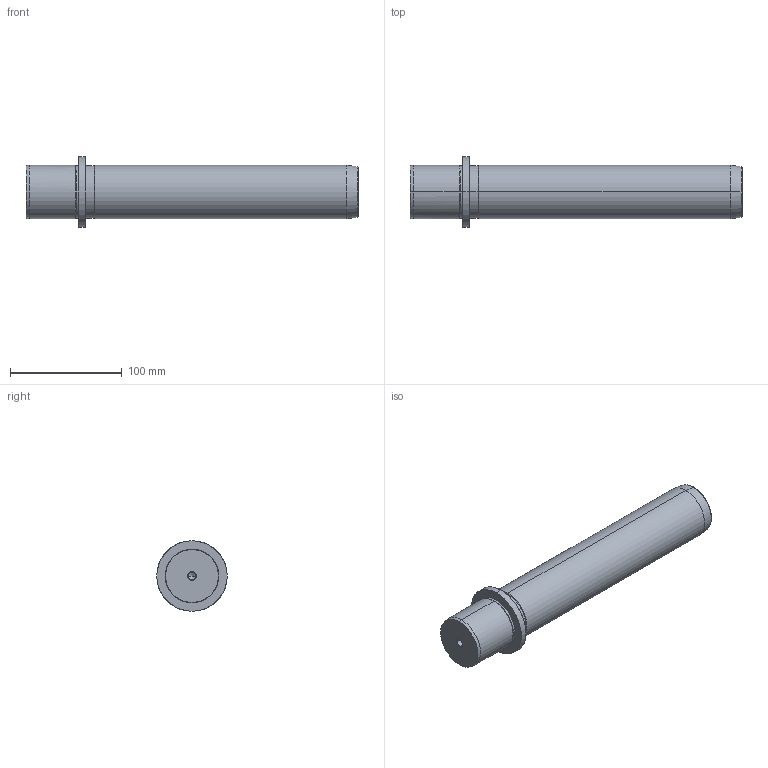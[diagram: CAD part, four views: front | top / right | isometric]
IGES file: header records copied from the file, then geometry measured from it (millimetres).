
Start section: START RECORD GO HERE.
Global section: file name: 719-48x250.igs; native system: DASSAULT SYSTEMES CATIA V5 R20 - www.3ds.com; preprocessor: CATIA Version 5 Release 20 ; author: Utente; organization: NB04-ASUS; date: 20210103.161627; units: millimetre
Bounding box: 297 x 63 x 63 mm (x, y, z)
Surface area: 52112.3 mm2 (no closed solid volume)
Topology: 0 solids, 0 shells, 36 faces, 196 edges, 192 vertices
Faces by surface type: revolution 32, plane 4
